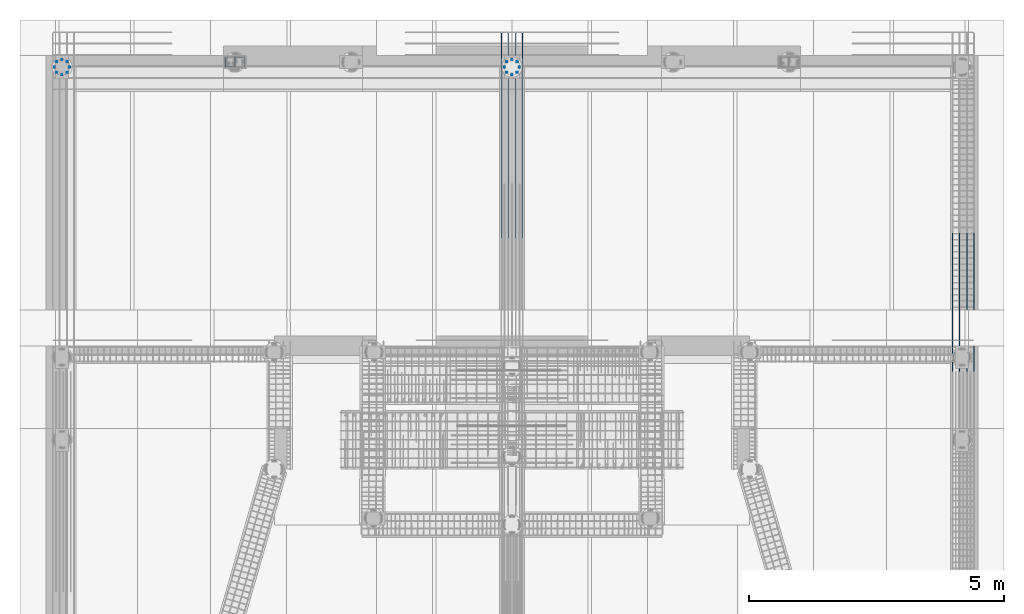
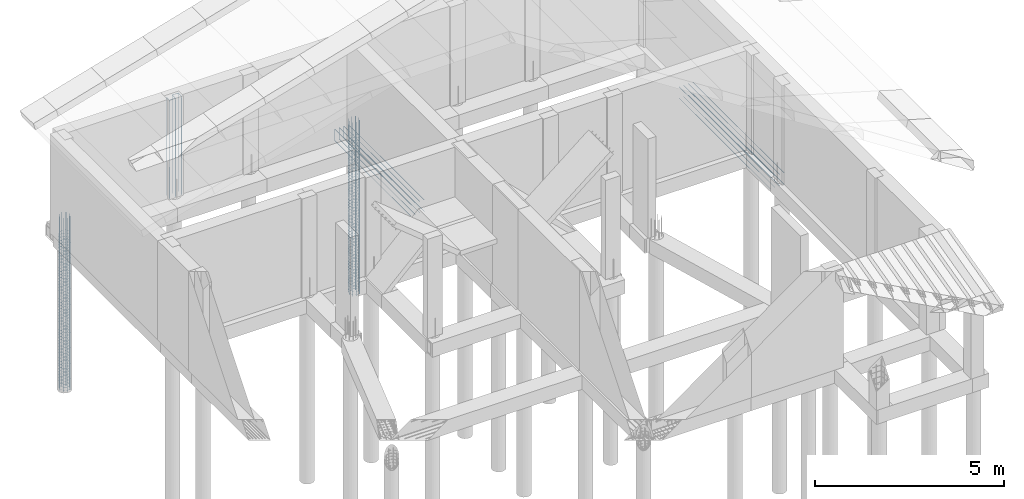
# One storey, part 12 of 13: 7 reinforcing bars.
"""IFC4 building model written with IfcOpenShell, lengths in metres."""

from ifc_helpers import new_model, entity, si_unit, origin_with_axes, place, context, project, spatial, source, transform, mapped, element, save


model = new_model("IFC4")

# Units and contexts
model_context = context("Model", 3, precision=1e-05, world=origin_with_axes())
ifc_project = project(units=[si_unit("LENGTHUNIT", "METRE"), si_unit("AREAUNIT", "SQUARE_METRE"), si_unit("VOLUMEUNIT", "CUBIC_METRE"), si_unit("MASSUNIT", "GRAM", prefix="KILO"), si_unit("TIMEUNIT", "SECOND"), si_unit("PLANEANGLEUNIT", "RADIAN"), si_unit("SOLIDANGLEUNIT", "STERADIAN"), si_unit("THERMODYNAMICTEMPERATUREUNIT", "DEGREE_CELSIUS")], contexts=[model_context])

# Site, building, storey
placement_1 = place(None, origin_with_axes())
site = spatial("IfcSite", under=ifc_project, at=placement_1, Name="Italia", CompositionType="ELEMENT")
building = spatial("IfcBuilding", under=site, at=placement_1, Name="Villa", CompositionType="ELEMENT")
storey = spatial("IfcBuildingStorey", under=building, at=placement_1, Name="Storey 0", CompositionType="ELEMENT", Elevation=0.0)

# Reinforcing bars
shared_shape_1 = source(origin_with_axes(), model_context, "Body", "AdvancedSweptSolid", [
    entity("IfcSweptDiskSolid", entity("IfcIndexedPolyCurve", entity("IfcCartesianPointList3D", [[3.472, 17.782, 0.0], [3.472, 17.782, 3.135], [3.47504, 17.782, 3.15031], [3.48372, 17.782, 3.16328], [3.49669, 17.782, 3.17196], [3.512, 17.782, 3.175], [3.654, 17.782, 3.175]]), [entity("IfcLineIndex", [1, 2]), entity("IfcLineIndex", [2, 3]), entity("IfcLineIndex", [3, 4]), entity("IfcLineIndex", [4, 5]), entity("IfcLineIndex", [5, 6]), entity("IfcLineIndex", [6, 7])], False), 0.008),
])
placement_2 = place(placement_1, origin_with_axes())
reinforcing_bar_1_placement = place(placement_2, origin_with_axes())
element("IfcReinforcingBar", 1, at=reinforcing_bar_1_placement, inside=storey, BarLength=3.33943, CrossSectionArea=0.00020106, NominalDiameter=0.016, context=model_context, shape_type="MappedRepresentation", body=[
    mapped(shared_shape_1, transform((7.31, 35.73, 0.0), x_axis=(-1.0, 0.0, 0.0), y_axis=(0.0, -1.0, 0.0), z_axis=(0.0, 0.0, 1.0), scale=1.0)),
    mapped(shared_shape_1, transform((-14.31, 21.42, 0.0), x_axis=(0.0, -1.0, 0.0), y_axis=(1.0, 0.0, 0.0), z_axis=(0.0, 0.0, 1.0), scale=1.0)),
    mapped(shared_shape_1, transform((0.0, 0.0, 0.0), x_axis=(1.0, 0.0, 0.0), y_axis=(0.0, 1.0, 0.0), z_axis=(0.0, 0.0, 1.0), scale=1.0)),
    mapped(shared_shape_1, transform((21.437, 14.31, 0.0), x_axis=(0.0, 1.0, 0.0), y_axis=(-1.0, 0.0, 0.0), z_axis=(0.0, 0.0, 1.0), scale=1.0)),
    mapped(shared_shape_1, transform((-14.127, 21.42, 0.0), x_axis=(0.0, -1.0, 0.0), y_axis=(1.0, 0.0, 0.0), z_axis=(0.0, 0.0, 1.0), scale=1.0)),
    mapped(shared_shape_1, transform((21.62, 14.31, 0.0), x_axis=(0.0, 1.0, 0.0), y_axis=(-1.0, 0.0, 0.0), z_axis=(0.0, 0.0, 1.0), scale=1.0)),
])
shared_shape_2 = source(origin_with_axes(), model_context, "Body", "AdvancedSweptSolid", [
    entity("IfcSweptDiskSolid", entity("IfcIndexedPolyCurve", entity("IfcCartesianPointList3D", [[0.369652, 17.6603, -5.0], [0.369652, 17.6603, 0.6]]), [entity("IfcLineIndex", [1, 2])], False), 0.008),
])
reinforcing_bar_2_placement = place(placement_2, origin_with_axes())
element("IfcReinforcingBar", 2, at=reinforcing_bar_2_placement, inside=storey, BarLength=5.6, CrossSectionArea=0.00020106, NominalDiameter=0.016, context=model_context, shape_type="MappedRepresentation", body=[
    mapped(shared_shape_2, transform((-0.252652, 0.104652, 0.0), x_axis=(1.0, 0.0, 0.0), y_axis=(0.0, 1.0, 0.0), z_axis=(0.0, 0.0, 1.0), scale=1.0)),
    mapped(shared_shape_2, transform((-0.209304, 0.209305, 0.0), x_axis=(1.0, 0.0, 0.0), y_axis=(0.0, 1.0, 0.0), z_axis=(0.0, 0.0, 1.0), scale=1.0)),
    mapped(shared_shape_2, transform((-0.104652, -0.0433483, 0.0), x_axis=(1.0, 0.0, 0.0), y_axis=(0.0, 1.0, 0.0), z_axis=(0.0, 0.0, 1.0), scale=1.0)),
    mapped(shared_shape_2, transform((-0.209304, 0.0, 0.0), x_axis=(1.0, 0.0, 0.0), y_axis=(0.0, 1.0, 0.0), z_axis=(0.0, 0.0, 1.0), scale=1.0)),
    mapped(shared_shape_2, transform((0.0433482, 0.104652, 0.0), x_axis=(1.0, 0.0, 0.0), y_axis=(0.0, 1.0, 0.0), z_axis=(0.0, 0.0, 1.0), scale=1.0)),
    mapped(shared_shape_2, transform((0.0, 0.0, 0.0), x_axis=(1.0, 0.0, 0.0), y_axis=(0.0, 1.0, 0.0), z_axis=(0.0, 0.0, 1.0), scale=1.0)),
    mapped(shared_shape_2, transform((-0.104652, 0.252653, 0.0), x_axis=(1.0, 0.0, 0.0), y_axis=(0.0, 1.0, 0.0), z_axis=(0.0, 0.0, 1.0), scale=1.0)),
    mapped(shared_shape_2, transform((0.0, 0.209305, 0.0), x_axis=(1.0, 0.0, 0.0), y_axis=(0.0, 1.0, 0.0), z_axis=(0.0, 0.0, 1.0), scale=1.0)),
])
shared_shape_3 = source(origin_with_axes(), model_context, "Body", "AdvancedSweptSolid", [
    entity("IfcSweptDiskSolid", entity("IfcIndexedPolyCurve", entity("IfcCartesianPointList3D", [[0.425, 17.765, -4.97], [0.417169, 17.7156, -4.965], [0.394443, 17.671, -4.96], [0.359046, 17.6356, -4.955], [0.314443, 17.6128, -4.95], [0.265, 17.605, -4.945], [0.215557, 17.6128, -4.94], [0.170954, 17.6356, -4.935], [0.135557, 17.671, -4.93], [0.112831, 17.7156, -4.925], [0.105, 17.765, -4.92], [0.112831, 17.8144, -4.915], [0.135557, 17.859, -4.91], [0.170954, 17.8944, -4.905], [0.215557, 17.9172, -4.9], [0.265, 17.925, -4.895], [0.314443, 17.9172, -4.89], [0.359046, 17.8944, -4.885], [0.394443, 17.859, -4.88], [0.417169, 17.8144, -4.875], [0.425, 17.765, -4.87]]), [entity("IfcLineIndex", [1, 2]), entity("IfcLineIndex", [2, 3]), entity("IfcLineIndex", [3, 4]), entity("IfcLineIndex", [4, 5]), entity("IfcLineIndex", [5, 6]), entity("IfcLineIndex", [6, 7]), entity("IfcLineIndex", [7, 8]), entity("IfcLineIndex", [8, 9]), entity("IfcLineIndex", [9, 10]), entity("IfcLineIndex", [10, 11]), entity("IfcLineIndex", [11, 12]), entity("IfcLineIndex", [12, 13]), entity("IfcLineIndex", [13, 14]), entity("IfcLineIndex", [14, 15]), entity("IfcLineIndex", [15, 16]), entity("IfcLineIndex", [16, 17]), entity("IfcLineIndex", [17, 18]), entity("IfcLineIndex", [18, 19]), entity("IfcLineIndex", [19, 20]), entity("IfcLineIndex", [20, 21])], False), 0.004),
])
reinforcing_bar_3_placement = place(placement_2, origin_with_axes())
element("IfcReinforcingBar", 3, at=reinforcing_bar_3_placement, inside=storey, BarLength=1.00616, CrossSectionArea=5.0265e-05, NominalDiameter=0.008, context=model_context, shape_type="MappedRepresentation", body=[
    mapped(shared_shape_3, transform((0.0, 0.0, 2.6), x_axis=(1.0, 0.0, 0.0), y_axis=(0.0, 1.0, 0.0), z_axis=(0.0, 0.0, 1.0), scale=1.0)),
    mapped(shared_shape_3, transform((0.0, 0.0, 2.5), x_axis=(1.0, 0.0, 0.0), y_axis=(0.0, 1.0, 0.0), z_axis=(0.0, 0.0, 1.0), scale=1.0)),
    mapped(shared_shape_3, transform((1.24276e-05, -1.33514e-05, 3.29994), x_axis=(1.0, 0.0, 0.0), y_axis=(0.0, 1.0, 0.0), z_axis=(0.0, 0.0, 1.0), scale=1.0)),
    mapped(shared_shape_3, transform((1.24276e-05, -1.33514e-05, 3.49994), x_axis=(1.0, 0.0, 0.0), y_axis=(0.0, 1.0, 0.0), z_axis=(0.0, 0.0, 1.0), scale=1.0)),
    mapped(shared_shape_3, transform((1.24276e-05, -1.33514e-05, 3.39994), x_axis=(1.0, 0.0, 0.0), y_axis=(0.0, 1.0, 0.0), z_axis=(0.0, 0.0, 1.0), scale=1.0)),
    mapped(shared_shape_3, transform((1.24276e-05, -1.33514e-05, 3.59995), x_axis=(1.0, 0.0, 0.0), y_axis=(0.0, 1.0, 0.0), z_axis=(0.0, 0.0, 1.0), scale=1.0)),
    mapped(shared_shape_3, transform((1.24276e-05, -1.33514e-05, 3.19994), x_axis=(1.0, 0.0, 0.0), y_axis=(0.0, 1.0, 0.0), z_axis=(0.0, 0.0, 1.0), scale=1.0)),
    mapped(shared_shape_3, transform((1.24276e-05, -1.33514e-05, 3.09994), x_axis=(1.0, 0.0, 0.0), y_axis=(0.0, 1.0, 0.0), z_axis=(0.0, 0.0, 1.0), scale=1.0)),
    mapped(shared_shape_3, transform((0.0, 0.0, 2.7), x_axis=(1.0, 0.0, 0.0), y_axis=(0.0, 1.0, 0.0), z_axis=(0.0, 0.0, 1.0), scale=1.0)),
    mapped(shared_shape_3, transform((0.0, 0.0, 2.9), x_axis=(1.0, 0.0, 0.0), y_axis=(0.0, 1.0, 0.0), z_axis=(0.0, 0.0, 1.0), scale=1.0)),
    mapped(shared_shape_3, transform((0.0, 0.0, 2.8), x_axis=(1.0, 0.0, 0.0), y_axis=(0.0, 1.0, 0.0), z_axis=(0.0, 0.0, 1.0), scale=1.0)),
    mapped(shared_shape_3, transform((1.24276e-05, -1.33514e-05, 2.99994), x_axis=(1.0, 0.0, 0.0), y_axis=(0.0, 1.0, 0.0), z_axis=(0.0, 0.0, 1.0), scale=1.0)),
    mapped(shared_shape_3, transform((1.24276e-05, -1.33514e-05, 3.79994), x_axis=(1.0, 0.0, 0.0), y_axis=(0.0, 1.0, 0.0), z_axis=(0.0, 0.0, 1.0), scale=1.0)),
    mapped(shared_shape_3, transform((1.24276e-05, -1.33514e-05, 3.69994), x_axis=(1.0, 0.0, 0.0), y_axis=(0.0, 1.0, 0.0), z_axis=(0.0, 0.0, 1.0), scale=1.0)),
    mapped(shared_shape_3, transform((1.36197e-05, -1.52588e-05, 4.49994), x_axis=(1.0, 0.0, 0.0), y_axis=(0.0, 1.0, 0.0), z_axis=(0.0, 0.0, 1.0), scale=1.0)),
    mapped(shared_shape_3, transform((1.36197e-05, -1.52588e-05, 4.69994), x_axis=(1.0, 0.0, 0.0), y_axis=(0.0, 1.0, 0.0), z_axis=(0.0, 0.0, 1.0), scale=1.0)),
    mapped(shared_shape_3, transform((1.36197e-05, -1.52588e-05, 4.59994), x_axis=(1.0, 0.0, 0.0), y_axis=(0.0, 1.0, 0.0), z_axis=(0.0, 0.0, 1.0), scale=1.0)),
    mapped(shared_shape_3, transform((1.31428e-05, -1.52588e-05, 4.79994), x_axis=(1.0, 0.0, 0.0), y_axis=(0.0, 1.0, 0.0), z_axis=(0.0, 0.0, 1.0), scale=1.0)),
    mapped(shared_shape_3, transform((1.24276e-05, -1.33514e-05, 4.39995), x_axis=(1.0, 0.0, 0.0), y_axis=(0.0, 1.0, 0.0), z_axis=(0.0, 0.0, 1.0), scale=1.0)),
    mapped(shared_shape_3, transform((1.24276e-05, -1.33514e-05, 4.29994), x_axis=(1.0, 0.0, 0.0), y_axis=(0.0, 1.0, 0.0), z_axis=(0.0, 0.0, 1.0), scale=1.0)),
    mapped(shared_shape_3, transform((1.24276e-05, -1.33514e-05, 3.89995), x_axis=(1.0, 0.0, 0.0), y_axis=(0.0, 1.0, 0.0), z_axis=(0.0, 0.0, 1.0), scale=1.0)),
    mapped(shared_shape_3, transform((1.24276e-05, -1.33514e-05, 4.09995), x_axis=(1.0, 0.0, 0.0), y_axis=(0.0, 1.0, 0.0), z_axis=(0.0, 0.0, 1.0), scale=1.0)),
    mapped(shared_shape_3, transform((1.24276e-05, -1.33514e-05, 3.99995), x_axis=(1.0, 0.0, 0.0), y_axis=(0.0, 1.0, 0.0), z_axis=(0.0, 0.0, 1.0), scale=1.0)),
    mapped(shared_shape_3, transform((1.24276e-05, -1.33514e-05, 4.19994), x_axis=(1.0, 0.0, 0.0), y_axis=(0.0, 1.0, 0.0), z_axis=(0.0, 0.0, 1.0), scale=1.0)),
    mapped(shared_shape_3, transform((0.0, 0.0, 0.0), x_axis=(1.0, 0.0, 0.0), y_axis=(0.0, 1.0, 0.0), z_axis=(0.0, 0.0, 1.0), scale=1.0)),
    mapped(shared_shape_3, transform((1.24276e-05, -1.33514e-05, 4.89995), x_axis=(1.0, 0.0, 0.0), y_axis=(0.0, 1.0, 0.0), z_axis=(0.0, 0.0, 1.0), scale=1.0)),
    mapped(shared_shape_3, transform((0.0, 0.0, 0.699999), x_axis=(1.0, 0.0, 0.0), y_axis=(0.0, 1.0, 0.0), z_axis=(0.0, 0.0, 1.0), scale=1.0)),
    mapped(shared_shape_3, transform((0.0, 0.0, 0.899999), x_axis=(1.0, 0.0, 0.0), y_axis=(0.0, 1.0, 0.0), z_axis=(0.0, 0.0, 1.0), scale=1.0)),
    mapped(shared_shape_3, transform((0.0, 0.0, 0.799999), x_axis=(1.0, 0.0, 0.0), y_axis=(0.0, 1.0, 0.0), z_axis=(0.0, 0.0, 1.0), scale=1.0)),
    mapped(shared_shape_3, transform((0.0, 0.0, 0.999999), x_axis=(1.0, 0.0, 0.0), y_axis=(0.0, 1.0, 0.0), z_axis=(0.0, 0.0, 1.0), scale=1.0)),
    mapped(shared_shape_3, transform((0.0, 0.0, 0.599999), x_axis=(1.0, 0.0, 0.0), y_axis=(0.0, 1.0, 0.0), z_axis=(0.0, 0.0, 1.0), scale=1.0)),
    mapped(shared_shape_3, transform((0.0, 0.0, 0.499999), x_axis=(1.0, 0.0, 0.0), y_axis=(0.0, 1.0, 0.0), z_axis=(0.0, 0.0, 1.0), scale=1.0)),
    mapped(shared_shape_3, transform((0.0, 0.0, 0.0999994), x_axis=(1.0, 0.0, 0.0), y_axis=(0.0, 1.0, 0.0), z_axis=(0.0, 0.0, 1.0), scale=1.0)),
    mapped(shared_shape_3, transform((0.0, 0.0, 0.299999), x_axis=(1.0, 0.0, 0.0), y_axis=(0.0, 1.0, 0.0), z_axis=(0.0, 0.0, 1.0), scale=1.0)),
    mapped(shared_shape_3, transform((0.0, 0.0, 0.199999), x_axis=(1.0, 0.0, 0.0), y_axis=(0.0, 1.0, 0.0), z_axis=(0.0, 0.0, 1.0), scale=1.0)),
    mapped(shared_shape_3, transform((0.0, 0.0, 0.399999), x_axis=(1.0, 0.0, 0.0), y_axis=(0.0, 1.0, 0.0), z_axis=(0.0, 0.0, 1.0), scale=1.0)),
    mapped(shared_shape_3, transform((0.0, 0.0, 1.2), x_axis=(1.0, 0.0, 0.0), y_axis=(0.0, 1.0, 0.0), z_axis=(0.0, 0.0, 1.0), scale=1.0)),
    mapped(shared_shape_3, transform((0.0, 0.0, 1.1), x_axis=(1.0, 0.0, 0.0), y_axis=(0.0, 1.0, 0.0), z_axis=(0.0, 0.0, 1.0), scale=1.0)),
    mapped(shared_shape_3, transform((0.0, 0.0, 1.9), x_axis=(1.0, 0.0, 0.0), y_axis=(0.0, 1.0, 0.0), z_axis=(0.0, 0.0, 1.0), scale=1.0)),
    mapped(shared_shape_3, transform((0.0, 0.0, 2.1), x_axis=(1.0, 0.0, 0.0), y_axis=(0.0, 1.0, 0.0), z_axis=(0.0, 0.0, 1.0), scale=1.0)),
    mapped(shared_shape_3, transform((0.0, 0.0, 2.0), x_axis=(1.0, 0.0, 0.0), y_axis=(0.0, 1.0, 0.0), z_axis=(0.0, 0.0, 1.0), scale=1.0)),
    mapped(shared_shape_3, transform((0.0, 0.0, 2.2), x_axis=(1.0, 0.0, 0.0), y_axis=(0.0, 1.0, 0.0), z_axis=(0.0, 0.0, 1.0), scale=1.0)),
    mapped(shared_shape_3, transform((0.0, 0.0, 1.8), x_axis=(1.0, 0.0, 0.0), y_axis=(0.0, 1.0, 0.0), z_axis=(0.0, 0.0, 1.0), scale=1.0)),
    mapped(shared_shape_3, transform((0.0, 0.0, 1.7), x_axis=(1.0, 0.0, 0.0), y_axis=(0.0, 1.0, 0.0), z_axis=(0.0, 0.0, 1.0), scale=1.0)),
    mapped(shared_shape_3, transform((0.0, 0.0, 1.3), x_axis=(1.0, 0.0, 0.0), y_axis=(0.0, 1.0, 0.0), z_axis=(0.0, 0.0, 1.0), scale=1.0)),
    mapped(shared_shape_3, transform((0.0, 0.0, 1.5), x_axis=(1.0, 0.0, 0.0), y_axis=(0.0, 1.0, 0.0), z_axis=(0.0, 0.0, 1.0), scale=1.0)),
    mapped(shared_shape_3, transform((0.0, 0.0, 1.4), x_axis=(1.0, 0.0, 0.0), y_axis=(0.0, 1.0, 0.0), z_axis=(0.0, 0.0, 1.0), scale=1.0)),
    mapped(shared_shape_3, transform((0.0, 0.0, 1.6), x_axis=(1.0, 0.0, 0.0), y_axis=(0.0, 1.0, 0.0), z_axis=(0.0, 0.0, 1.0), scale=1.0)),
    mapped(shared_shape_3, transform((0.0, 0.0, 2.4), x_axis=(1.0, 0.0, 0.0), y_axis=(0.0, 1.0, 0.0), z_axis=(0.0, 0.0, 1.0), scale=1.0)),
    mapped(shared_shape_3, transform((0.0, 0.0, 2.3), x_axis=(1.0, 0.0, 0.0), y_axis=(0.0, 1.0, 0.0), z_axis=(0.0, 0.0, 1.0), scale=1.0)),
])
shared_shape_4 = source(origin_with_axes(), model_context, "Body", "AdvancedSweptSolid", [
    entity("IfcSweptDiskSolid", entity("IfcIndexedPolyCurve", entity("IfcCartesianPointList3D", [[9.19465, 17.6603, -5.0], [9.19465, 17.6603, 0.6]]), [entity("IfcLineIndex", [1, 2])], False), 0.008),
])
reinforcing_bar_4_placement = place(placement_2, origin_with_axes())
element("IfcReinforcingBar", 4, at=reinforcing_bar_4_placement, inside=storey, BarLength=5.6, CrossSectionArea=0.00020106, NominalDiameter=0.016, context=model_context, shape_type="MappedRepresentation", body=[
    mapped(shared_shape_4, transform((-0.252651, 0.104654, 0.0), x_axis=(1.0, 0.0, 0.0), y_axis=(0.0, 1.0, 0.0), z_axis=(0.0, 0.0, 1.0), scale=1.0)),
    mapped(shared_shape_4, transform((-0.209303, 0.209307, 0.0), x_axis=(1.0, 0.0, 0.0), y_axis=(0.0, 1.0, 0.0), z_axis=(0.0, 0.0, 1.0), scale=1.0)),
    mapped(shared_shape_4, transform((-0.104651, -0.0433464, 0.0), x_axis=(1.0, 0.0, 0.0), y_axis=(0.0, 1.0, 0.0), z_axis=(0.0, 0.0, 1.0), scale=1.0)),
    mapped(shared_shape_4, transform((-0.209303, 0.0, 0.0), x_axis=(1.0, 0.0, 0.0), y_axis=(0.0, 1.0, 0.0), z_axis=(0.0, 0.0, 1.0), scale=1.0)),
    mapped(shared_shape_4, transform((0.0433483, 0.104654, 0.0), x_axis=(1.0, 0.0, 0.0), y_axis=(0.0, 1.0, 0.0), z_axis=(0.0, 0.0, 1.0), scale=1.0)),
    mapped(shared_shape_4, transform((0.0, 0.0, 0.0), x_axis=(1.0, 0.0, 0.0), y_axis=(0.0, 1.0, 0.0), z_axis=(0.0, 0.0, 1.0), scale=1.0)),
    mapped(shared_shape_4, transform((-0.104651, 0.252655, 0.0), x_axis=(1.0, 0.0, 0.0), y_axis=(0.0, 1.0, 0.0), z_axis=(0.0, 0.0, 1.0), scale=1.0)),
    mapped(shared_shape_4, transform((0.0, 0.209307, 0.0), x_axis=(1.0, 0.0, 0.0), y_axis=(0.0, 1.0, 0.0), z_axis=(0.0, 0.0, 1.0), scale=1.0)),
])
shared_shape_5 = source(origin_with_axes(), model_context, "Body", "AdvancedSweptSolid", [
    entity("IfcSweptDiskSolid", entity("IfcIndexedPolyCurve", entity("IfcCartesianPointList3D", [[9.25, 17.765, -4.97], [9.24217, 17.7156, -4.965], [9.21944, 17.671, -4.96], [9.18405, 17.6356, -4.955], [9.13944, 17.6128, -4.95], [9.09, 17.605, -4.945], [9.04056, 17.6128, -4.94], [8.99595, 17.6356, -4.935], [8.96056, 17.671, -4.93], [8.93783, 17.7156, -4.925], [8.93, 17.765, -4.92], [8.93783, 17.8144, -4.915], [8.96056, 17.859, -4.91], [8.99595, 17.8944, -4.905], [9.04056, 17.9172, -4.9], [9.09, 17.925, -4.895], [9.13944, 17.9172, -4.89], [9.18405, 17.8944, -4.885], [9.21944, 17.859, -4.88], [9.24217, 17.8144, -4.875], [9.25, 17.765, -4.87]]), [entity("IfcLineIndex", [1, 2]), entity("IfcLineIndex", [2, 3]), entity("IfcLineIndex", [3, 4]), entity("IfcLineIndex", [4, 5]), entity("IfcLineIndex", [5, 6]), entity("IfcLineIndex", [6, 7]), entity("IfcLineIndex", [7, 8]), entity("IfcLineIndex", [8, 9]), entity("IfcLineIndex", [9, 10]), entity("IfcLineIndex", [10, 11]), entity("IfcLineIndex", [11, 12]), entity("IfcLineIndex", [12, 13]), entity("IfcLineIndex", [13, 14]), entity("IfcLineIndex", [14, 15]), entity("IfcLineIndex", [15, 16]), entity("IfcLineIndex", [16, 17]), entity("IfcLineIndex", [17, 18]), entity("IfcLineIndex", [18, 19]), entity("IfcLineIndex", [19, 20]), entity("IfcLineIndex", [20, 21])], False), 0.004),
])
reinforcing_bar_5_placement = place(placement_2, origin_with_axes())
element("IfcReinforcingBar", 5, at=reinforcing_bar_5_placement, inside=storey, BarLength=1.00616, CrossSectionArea=5.0265e-05, NominalDiameter=0.008, context=model_context, shape_type="MappedRepresentation", body=[
    mapped(shared_shape_5, transform((0.0, 0.0, 2.6), x_axis=(1.0, 0.0, 0.0), y_axis=(0.0, 1.0, 0.0), z_axis=(0.0, 0.0, 1.0), scale=1.0)),
    mapped(shared_shape_5, transform((0.0, 0.0, 2.5), x_axis=(1.0, 0.0, 0.0), y_axis=(0.0, 1.0, 0.0), z_axis=(0.0, 0.0, 1.0), scale=1.0)),
    mapped(shared_shape_5, transform((1.23978e-05, -1.14441e-05, 3.29998), x_axis=(1.0, 0.0, 0.0), y_axis=(0.0, 1.0, 0.0), z_axis=(0.0, 0.0, 1.0), scale=1.0)),
    mapped(shared_shape_5, transform((1.23978e-05, -1.14441e-05, 3.49998), x_axis=(1.0, 0.0, 0.0), y_axis=(0.0, 1.0, 0.0), z_axis=(0.0, 0.0, 1.0), scale=1.0)),
    mapped(shared_shape_5, transform((1.23978e-05, -1.14441e-05, 3.39998), x_axis=(1.0, 0.0, 0.0), y_axis=(0.0, 1.0, 0.0), z_axis=(0.0, 0.0, 1.0), scale=1.0)),
    mapped(shared_shape_5, transform((1.23978e-05, -1.14441e-05, 3.59998), x_axis=(1.0, 0.0, 0.0), y_axis=(0.0, 1.0, 0.0), z_axis=(0.0, 0.0, 1.0), scale=1.0)),
    mapped(shared_shape_5, transform((1.23978e-05, -1.14441e-05, 3.19998), x_axis=(1.0, 0.0, 0.0), y_axis=(0.0, 1.0, 0.0), z_axis=(0.0, 0.0, 1.0), scale=1.0)),
    mapped(shared_shape_5, transform((1.23978e-05, -1.14441e-05, 3.09998), x_axis=(1.0, 0.0, 0.0), y_axis=(0.0, 1.0, 0.0), z_axis=(0.0, 0.0, 1.0), scale=1.0)),
    mapped(shared_shape_5, transform((0.0, 0.0, 2.7), x_axis=(1.0, 0.0, 0.0), y_axis=(0.0, 1.0, 0.0), z_axis=(0.0, 0.0, 1.0), scale=1.0)),
    mapped(shared_shape_5, transform((0.0, 0.0, 2.9), x_axis=(1.0, 0.0, 0.0), y_axis=(0.0, 1.0, 0.0), z_axis=(0.0, 0.0, 1.0), scale=1.0)),
    mapped(shared_shape_5, transform((0.0, 0.0, 2.8), x_axis=(1.0, 0.0, 0.0), y_axis=(0.0, 1.0, 0.0), z_axis=(0.0, 0.0, 1.0), scale=1.0)),
    mapped(shared_shape_5, transform((1.23978e-05, -1.14441e-05, 2.99998), x_axis=(1.0, 0.0, 0.0), y_axis=(0.0, 1.0, 0.0), z_axis=(0.0, 0.0, 1.0), scale=1.0)),
    mapped(shared_shape_5, transform((1.23978e-05, -1.14441e-05, 3.79998), x_axis=(1.0, 0.0, 0.0), y_axis=(0.0, 1.0, 0.0), z_axis=(0.0, 0.0, 1.0), scale=1.0)),
    mapped(shared_shape_5, transform((1.23978e-05, -1.14441e-05, 3.69998), x_axis=(1.0, 0.0, 0.0), y_axis=(0.0, 1.0, 0.0), z_axis=(0.0, 0.0, 1.0), scale=1.0)),
    mapped(shared_shape_5, transform((1.33514e-05, -1.14441e-05, 4.49998), x_axis=(1.0, 0.0, 0.0), y_axis=(0.0, 1.0, 0.0), z_axis=(0.0, 0.0, 1.0), scale=1.0)),
    mapped(shared_shape_5, transform((1.33514e-05, -1.14441e-05, 4.69998), x_axis=(1.0, 0.0, 0.0), y_axis=(0.0, 1.0, 0.0), z_axis=(0.0, 0.0, 1.0), scale=1.0)),
    mapped(shared_shape_5, transform((1.33514e-05, -1.14441e-05, 4.59998), x_axis=(1.0, 0.0, 0.0), y_axis=(0.0, 1.0, 0.0), z_axis=(0.0, 0.0, 1.0), scale=1.0)),
    mapped(shared_shape_5, transform((1.33514e-05, -1.14441e-05, 4.79998), x_axis=(1.0, 0.0, 0.0), y_axis=(0.0, 1.0, 0.0), z_axis=(0.0, 0.0, 1.0), scale=1.0)),
    mapped(shared_shape_5, transform((1.23978e-05, -1.14441e-05, 4.39998), x_axis=(1.0, 0.0, 0.0), y_axis=(0.0, 1.0, 0.0), z_axis=(0.0, 0.0, 1.0), scale=1.0)),
    mapped(shared_shape_5, transform((1.23978e-05, -1.14441e-05, 4.29998), x_axis=(1.0, 0.0, 0.0), y_axis=(0.0, 1.0, 0.0), z_axis=(0.0, 0.0, 1.0), scale=1.0)),
    mapped(shared_shape_5, transform((1.23978e-05, -1.14441e-05, 3.89998), x_axis=(1.0, 0.0, 0.0), y_axis=(0.0, 1.0, 0.0), z_axis=(0.0, 0.0, 1.0), scale=1.0)),
    mapped(shared_shape_5, transform((1.23978e-05, -1.14441e-05, 4.09998), x_axis=(1.0, 0.0, 0.0), y_axis=(0.0, 1.0, 0.0), z_axis=(0.0, 0.0, 1.0), scale=1.0)),
    mapped(shared_shape_5, transform((1.23978e-05, -1.14441e-05, 3.99998), x_axis=(1.0, 0.0, 0.0), y_axis=(0.0, 1.0, 0.0), z_axis=(0.0, 0.0, 1.0), scale=1.0)),
    mapped(shared_shape_5, transform((1.23978e-05, -1.14441e-05, 4.19998), x_axis=(1.0, 0.0, 0.0), y_axis=(0.0, 1.0, 0.0), z_axis=(0.0, 0.0, 1.0), scale=1.0)),
    mapped(shared_shape_5, transform((0.0, 0.0, 0.0), x_axis=(1.0, 0.0, 0.0), y_axis=(0.0, 1.0, 0.0), z_axis=(0.0, 0.0, 1.0), scale=1.0)),
    mapped(shared_shape_5, transform((1.23978e-05, -1.14441e-05, 4.89998), x_axis=(1.0, 0.0, 0.0), y_axis=(0.0, 1.0, 0.0), z_axis=(0.0, 0.0, 1.0), scale=1.0)),
    mapped(shared_shape_5, transform((0.0, 0.0, 0.699999), x_axis=(1.0, 0.0, 0.0), y_axis=(0.0, 1.0, 0.0), z_axis=(0.0, 0.0, 1.0), scale=1.0)),
    mapped(shared_shape_5, transform((0.0, 0.0, 0.899999), x_axis=(1.0, 0.0, 0.0), y_axis=(0.0, 1.0, 0.0), z_axis=(0.0, 0.0, 1.0), scale=1.0)),
    mapped(shared_shape_5, transform((0.0, 0.0, 0.799999), x_axis=(1.0, 0.0, 0.0), y_axis=(0.0, 1.0, 0.0), z_axis=(0.0, 0.0, 1.0), scale=1.0)),
    mapped(shared_shape_5, transform((0.0, 0.0, 0.999999), x_axis=(1.0, 0.0, 0.0), y_axis=(0.0, 1.0, 0.0), z_axis=(0.0, 0.0, 1.0), scale=1.0)),
    mapped(shared_shape_5, transform((0.0, 0.0, 0.599999), x_axis=(1.0, 0.0, 0.0), y_axis=(0.0, 1.0, 0.0), z_axis=(0.0, 0.0, 1.0), scale=1.0)),
    mapped(shared_shape_5, transform((0.0, 0.0, 0.499999), x_axis=(1.0, 0.0, 0.0), y_axis=(0.0, 1.0, 0.0), z_axis=(0.0, 0.0, 1.0), scale=1.0)),
    mapped(shared_shape_5, transform((0.0, 0.0, 0.0999994), x_axis=(1.0, 0.0, 0.0), y_axis=(0.0, 1.0, 0.0), z_axis=(0.0, 0.0, 1.0), scale=1.0)),
    mapped(shared_shape_5, transform((0.0, 0.0, 0.299999), x_axis=(1.0, 0.0, 0.0), y_axis=(0.0, 1.0, 0.0), z_axis=(0.0, 0.0, 1.0), scale=1.0)),
    mapped(shared_shape_5, transform((0.0, 0.0, 0.199999), x_axis=(1.0, 0.0, 0.0), y_axis=(0.0, 1.0, 0.0), z_axis=(0.0, 0.0, 1.0), scale=1.0)),
    mapped(shared_shape_5, transform((0.0, 0.0, 0.399999), x_axis=(1.0, 0.0, 0.0), y_axis=(0.0, 1.0, 0.0), z_axis=(0.0, 0.0, 1.0), scale=1.0)),
    mapped(shared_shape_5, transform((0.0, 0.0, 1.2), x_axis=(1.0, 0.0, 0.0), y_axis=(0.0, 1.0, 0.0), z_axis=(0.0, 0.0, 1.0), scale=1.0)),
    mapped(shared_shape_5, transform((0.0, 0.0, 1.1), x_axis=(1.0, 0.0, 0.0), y_axis=(0.0, 1.0, 0.0), z_axis=(0.0, 0.0, 1.0), scale=1.0)),
    mapped(shared_shape_5, transform((0.0, 0.0, 1.9), x_axis=(1.0, 0.0, 0.0), y_axis=(0.0, 1.0, 0.0), z_axis=(0.0, 0.0, 1.0), scale=1.0)),
    mapped(shared_shape_5, transform((0.0, 0.0, 2.1), x_axis=(1.0, 0.0, 0.0), y_axis=(0.0, 1.0, 0.0), z_axis=(0.0, 0.0, 1.0), scale=1.0)),
    mapped(shared_shape_5, transform((0.0, 0.0, 2.0), x_axis=(1.0, 0.0, 0.0), y_axis=(0.0, 1.0, 0.0), z_axis=(0.0, 0.0, 1.0), scale=1.0)),
    mapped(shared_shape_5, transform((0.0, 0.0, 2.2), x_axis=(1.0, 0.0, 0.0), y_axis=(0.0, 1.0, 0.0), z_axis=(0.0, 0.0, 1.0), scale=1.0)),
    mapped(shared_shape_5, transform((0.0, 0.0, 1.8), x_axis=(1.0, 0.0, 0.0), y_axis=(0.0, 1.0, 0.0), z_axis=(0.0, 0.0, 1.0), scale=1.0)),
    mapped(shared_shape_5, transform((0.0, 0.0, 1.7), x_axis=(1.0, 0.0, 0.0), y_axis=(0.0, 1.0, 0.0), z_axis=(0.0, 0.0, 1.0), scale=1.0)),
    mapped(shared_shape_5, transform((0.0, 0.0, 1.3), x_axis=(1.0, 0.0, 0.0), y_axis=(0.0, 1.0, 0.0), z_axis=(0.0, 0.0, 1.0), scale=1.0)),
    mapped(shared_shape_5, transform((0.0, 0.0, 1.5), x_axis=(1.0, 0.0, 0.0), y_axis=(0.0, 1.0, 0.0), z_axis=(0.0, 0.0, 1.0), scale=1.0)),
    mapped(shared_shape_5, transform((0.0, 0.0, 1.4), x_axis=(1.0, 0.0, 0.0), y_axis=(0.0, 1.0, 0.0), z_axis=(0.0, 0.0, 1.0), scale=1.0)),
    mapped(shared_shape_5, transform((0.0, 0.0, 1.6), x_axis=(1.0, 0.0, 0.0), y_axis=(0.0, 1.0, 0.0), z_axis=(0.0, 0.0, 1.0), scale=1.0)),
    mapped(shared_shape_5, transform((0.0, 0.0, 2.4), x_axis=(1.0, 0.0, 0.0), y_axis=(0.0, 1.0, 0.0), z_axis=(0.0, 0.0, 1.0), scale=1.0)),
    mapped(shared_shape_5, transform((0.0, 0.0, 2.3), x_axis=(1.0, 0.0, 0.0), y_axis=(0.0, 1.0, 0.0), z_axis=(0.0, 0.0, 1.0), scale=1.0)),
])
shared_shape_6 = source(origin_with_axes(), model_context, "Body", "AdvancedSweptSolid", [
    entity("IfcSweptDiskSolid", entity("IfcIndexedPolyCurve", entity("IfcCartesianPointList3D", [[9.299, 14.4192, -0.409], [9.299, 14.945, -0.409], [9.299, 17.765, -0.409], [9.299, 18.42, -0.409], [9.299, 18.4238, -0.408239], [9.299, 18.4271, -0.406071], [9.299, 18.4292, -0.402827], [9.299, 18.43, -0.399], [9.299, 18.43, -0.159]]), [entity("IfcLineIndex", [1, 2]), entity("IfcLineIndex", [2, 3]), entity("IfcLineIndex", [3, 4]), entity("IfcLineIndex", [4, 5]), entity("IfcLineIndex", [5, 6]), entity("IfcLineIndex", [6, 7]), entity("IfcLineIndex", [7, 8]), entity("IfcLineIndex", [8, 9])], False), 0.008),
])
reinforcing_bar_6_placement = place(placement_2, origin_with_axes())
element("IfcReinforcingBar", 6, at=reinforcing_bar_6_placement, inside=storey, BarLength=4.25642, CrossSectionArea=0.00020106, NominalDiameter=0.016, context=model_context, shape_type="MappedRepresentation", body=[
    mapped(shared_shape_6, transform((18.18, 0.0, -0.45), x_axis=(-1.0, 0.0, 0.0), y_axis=(0.0, 1.0, 0.0), z_axis=(0.0, 0.0, -1.0), scale=1.0)),
    mapped(shared_shape_6, transform((18.598, 0.0, -0.45), x_axis=(-1.0, 0.0, 0.0), y_axis=(0.0, 1.0, 0.0), z_axis=(0.0, 0.0, -1.0), scale=1.0)),
    mapped(shared_shape_6, transform((18.3167, 0.0, -0.45), x_axis=(-1.0, 0.0, 0.0), y_axis=(0.0, 1.0, 0.0), z_axis=(0.0, 0.0, -1.0), scale=1.0)),
    mapped(shared_shape_6, transform((18.4613, 0.0, -0.45), x_axis=(-1.0, 0.0, 0.0), y_axis=(0.0, 1.0, 0.0), z_axis=(0.0, 0.0, -1.0), scale=1.0)),
    mapped(shared_shape_6, transform((-0.417999, 0.0, 0.0), x_axis=(1.0, 0.0, 0.0), y_axis=(0.0, 1.0, 0.0), z_axis=(0.0, 0.0, 1.0), scale=1.0)),
    mapped(shared_shape_6, transform((0.0, 0.0, 0.0), x_axis=(1.0, 0.0, 0.0), y_axis=(0.0, 1.0, 0.0), z_axis=(0.0, 0.0, 1.0), scale=1.0)),
    mapped(shared_shape_6, transform((-0.281333, 0.0, 0.0), x_axis=(1.0, 0.0, 0.0), y_axis=(0.0, 1.0, 0.0), z_axis=(0.0, 0.0, 1.0), scale=1.0)),
    mapped(shared_shape_6, transform((-0.136666, 0.0, 0.0), x_axis=(1.0, 0.0, 0.0), y_axis=(0.0, 1.0, 0.0), z_axis=(0.0, 0.0, 1.0), scale=1.0)),
])
shared_shape_7 = source(origin_with_axes(), model_context, "Body", "AdvancedSweptSolid", [
    entity("IfcSweptDiskSolid", entity("IfcIndexedPolyCurve", entity("IfcCartesianPointList3D", [[18.149, 10.7414, -0.409], [18.149, 11.2672, -0.409], [18.149, 15.0347, -0.409], [18.149, 15.5605, -0.409]]), [entity("IfcLineIndex", [1, 2]), entity("IfcLineIndex", [2, 3]), entity("IfcLineIndex", [3, 4])], False), 0.008),
])
reinforcing_bar_7_placement = place(placement_2, origin_with_axes())
element("IfcReinforcingBar", 7, at=reinforcing_bar_7_placement, inside=storey, BarLength=4.81913, CrossSectionArea=0.00020106, NominalDiameter=0.016, context=model_context, shape_type="MappedRepresentation", body=[
    mapped(shared_shape_7, transform((-0.417999, 0.0, 0.368), x_axis=(1.0, 0.0, 0.0), y_axis=(0.0, 1.0, 0.0), z_axis=(0.0, 0.0, 1.0), scale=1.0)),
    mapped(shared_shape_7, transform((0.0, 0.0, 0.368), x_axis=(1.0, 0.0, 0.0), y_axis=(0.0, 1.0, 0.0), z_axis=(0.0, 0.0, 1.0), scale=1.0)),
    mapped(shared_shape_7, transform((-0.281332, 0.0, 0.368), x_axis=(1.0, 0.0, 0.0), y_axis=(0.0, 1.0, 0.0), z_axis=(0.0, 0.0, 1.0), scale=1.0)),
    mapped(shared_shape_7, transform((-0.136667, 0.0, 0.368), x_axis=(1.0, 0.0, 0.0), y_axis=(0.0, 1.0, 0.0), z_axis=(0.0, 0.0, 1.0), scale=1.0)),
    mapped(shared_shape_7, transform((-0.417999, 0.0, 0.0), x_axis=(1.0, 0.0, 0.0), y_axis=(0.0, 1.0, 0.0), z_axis=(0.0, 0.0, 1.0), scale=1.0)),
    mapped(shared_shape_7, transform((0.0, 0.0, 0.0), x_axis=(1.0, 0.0, 0.0), y_axis=(0.0, 1.0, 0.0), z_axis=(0.0, 0.0, 1.0), scale=1.0)),
    mapped(shared_shape_7, transform((-0.281332, 0.0, 0.0), x_axis=(1.0, 0.0, 0.0), y_axis=(0.0, 1.0, 0.0), z_axis=(0.0, 0.0, 1.0), scale=1.0)),
    mapped(shared_shape_7, transform((-0.136667, 0.0, 0.0), x_axis=(1.0, 0.0, 0.0), y_axis=(0.0, 1.0, 0.0), z_axis=(0.0, 0.0, 1.0), scale=1.0)),
])

save(model, "model.ifc")
